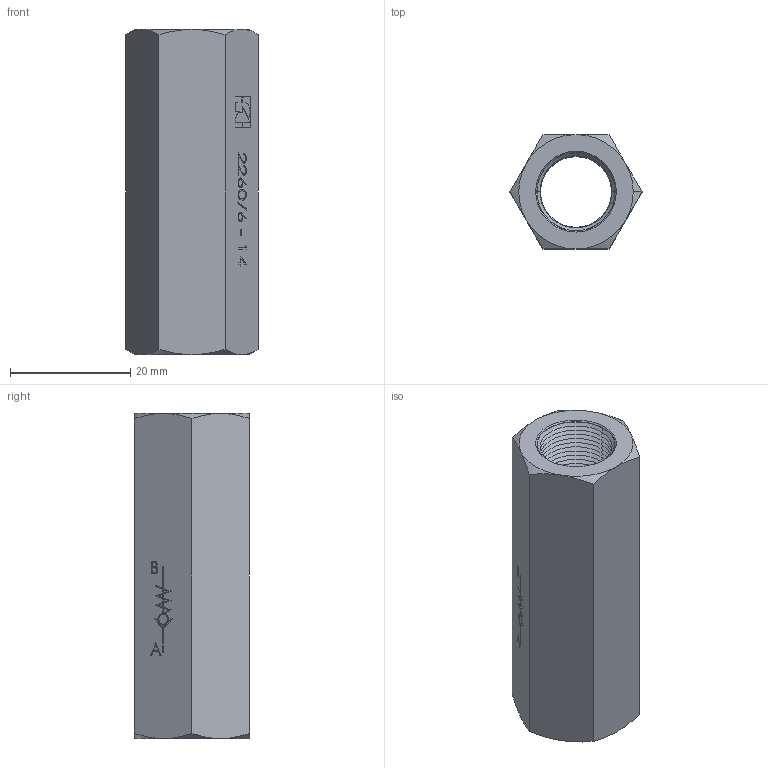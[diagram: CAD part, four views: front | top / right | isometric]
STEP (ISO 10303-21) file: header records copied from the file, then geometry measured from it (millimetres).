
FILE_DESCRIPTION (( 'STEP AP214' ), '1' );
FILE_NAME ('2260-6-14.STEP', '2015-04-08T18:56:12', ( '' ), ( '' ), 'SwSTEP 2.0', 'SolidWorks 2014', '' );
FILE_SCHEMA (( 'AUTOMOTIVE_DESIGN' ));
Length unit declared in the file: millimetre
Products named in the file (1): 2260-6-14
Bounding box: 21.94 x 19 x 54 mm (x, y, z)
Surface area: 4855.9 mm2 (no closed solid volume)
Topology: 0 solids, 12 shells, 304 faces, 814 edges, 522 vertices
Faces by surface type: plane 158, cone 88, bspline 46, cylinder 12
Entity records: 15650 total; most frequent: CARTESIAN_POINT 5031, ORIENTED_EDGE 1504, DIRECTION 1352, EDGE_CURVE 814, LINE 554, VECTOR 554, VERTEX_POINT 522, AXIS2_PLACEMENT_3D 399
